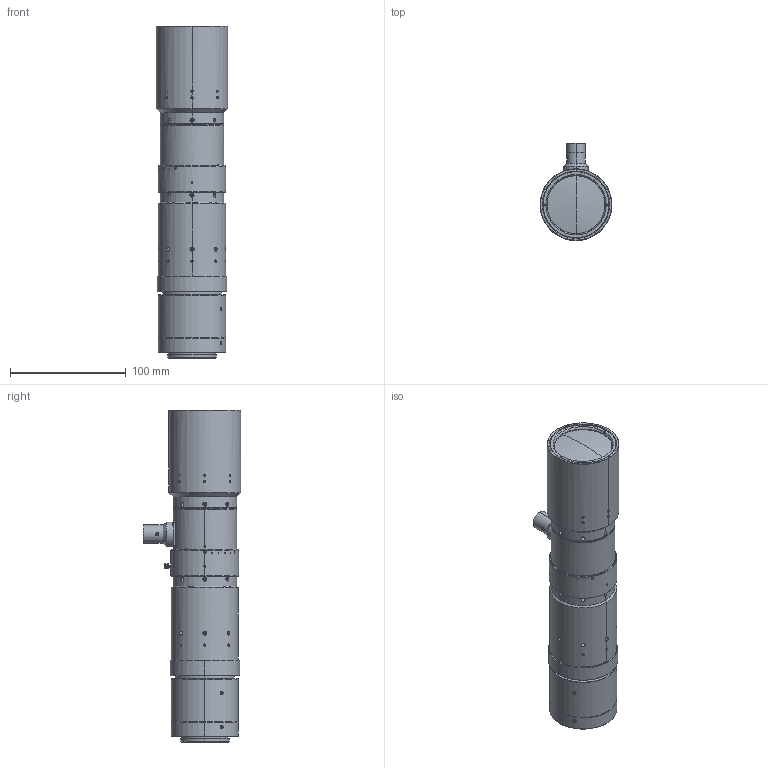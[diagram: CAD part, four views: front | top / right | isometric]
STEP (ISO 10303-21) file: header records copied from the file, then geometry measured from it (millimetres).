
FILE_DESCRIPTION (( 'STEP AP214' ), '1' );
FILE_NAME ('MML0685-ZR150DVI-20P.STEP', '2026-06-24T06:58:31', ( '' ), ( '' ), 'SwSTEP 2.0', 'SolidWorks 2025', '' );
FILE_SCHEMA (( 'AUTOMOTIVE_DESIGN' ));
Length unit declared in the file: millimetre
Products named in the file (1): MML0685-ZR150DVI-20P
Bounding box: 62 x 84.18 x 286.99 mm (x, y, z)
Volume: 654543.1 mm3; surface area: 78717.2 mm2
Topology: 1 solids, 1 shells, 1027 faces, 2417 edges, 1510 vertices
Faces by surface type: cylinder 408, plane 286, cone 265, bspline 56, sphere 8, torus 4
Entity records: 40770 total; most frequent: CARTESIAN_POINT 18316, ORIENTED_EDGE 4826, DIRECTION 4295, EDGE_CURVE 2413, AXIS2_PLACEMENT_3D 1671, VERTEX_POINT 1510, EDGE_LOOP 1151, ADVANCED_FACE 1027
